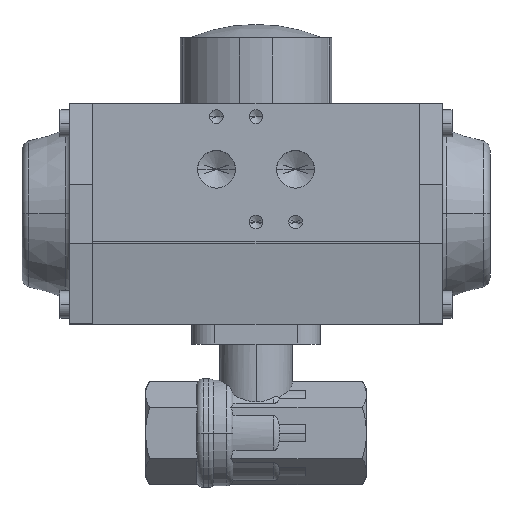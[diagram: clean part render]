
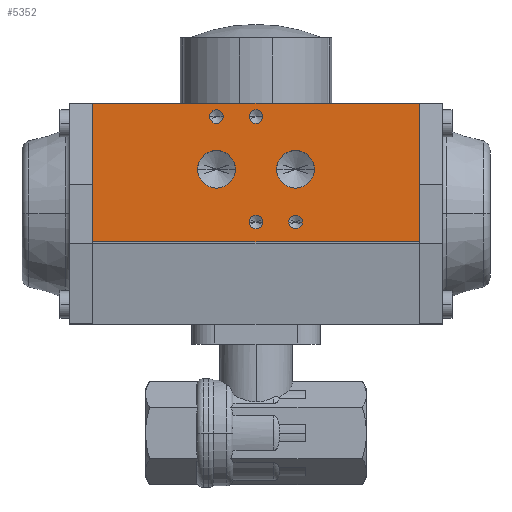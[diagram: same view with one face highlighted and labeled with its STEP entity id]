
A CAD part, top view. The second image highlights one B-rep face of the part: STEP entity #5352.
In plain terms, the highlighted planar face has unit normal (0, 0, 1) as drawn and (1, 0, 0) by its records, which use the part's own axes.
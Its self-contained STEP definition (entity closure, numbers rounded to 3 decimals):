
#476 = ORIENTED_EDGE ( 'NONE', *, *, #10425, .F. ) ;
#477 = ORIENTED_EDGE ( 'NONE', *, *, #5603, .F. ) ;
#478 = ORIENTED_EDGE ( 'NONE', *, *, #10426, .F. ) ;
#479 = ORIENTED_EDGE ( 'NONE', *, *, #5609, .F. ) ;
#480 = ORIENTED_EDGE ( 'NONE', *, *, #10427, .F. ) ;
#481 = ORIENTED_EDGE ( 'NONE', *, *, #5615, .F. ) ;
#482 = ORIENTED_EDGE ( 'NONE', *, *, #10428, .F. ) ;
#483 = ORIENTED_EDGE ( 'NONE', *, *, #5621, .F. ) ;
#484 = ORIENTED_EDGE ( 'NONE', *, *, #10429, .F. ) ;
#485 = ORIENTED_EDGE ( 'NONE', *, *, #5627, .F. ) ;
#486 = ORIENTED_EDGE ( 'NONE', *, *, #10430, .F. ) ;
#487 = ORIENTED_EDGE ( 'NONE', *, *, #5633, .F. ) ;
#488 = ORIENTED_EDGE ( 'NONE', *, *, #10423, .T. ) ;
#489 = ORIENTED_EDGE ( 'NONE', *, *, #10431, .F. ) ;
#490 = ORIENTED_EDGE ( 'NONE', *, *, #10432, .F. ) ;
#491 = ORIENTED_EDGE ( 'NONE', *, *, #10433, .T. ) ;
#1293 = CARTESIAN_POINT ( 'NONE',  ( 36., 29.5, 14.1 ) ) ;
#1294 = CARTESIAN_POINT ( 'NONE',  ( 36., 29.5, 9.9 ) ) ;
#1298 = CARTESIAN_POINT ( 'NONE',  ( 36., -2.5, -9.9 ) ) ;
#1299 = CARTESIAN_POINT ( 'NONE',  ( 36., -2.5, -14.1 ) ) ;
#1303 = CARTESIAN_POINT ( 'NONE',  ( 36., -2.5, 2.1 ) ) ;
#1304 = CARTESIAN_POINT ( 'NONE',  ( 36., -2.5, -2.1 ) ) ;
#1308 = CARTESIAN_POINT ( 'NONE',  ( 36., 29.5, 2.1 ) ) ;
#1309 = CARTESIAN_POINT ( 'NONE',  ( 36., 29.5, -2.1 ) ) ;
#1313 = CARTESIAN_POINT ( 'NONE',  ( 36., 13.5, -6.277 ) ) ;
#1314 = CARTESIAN_POINT ( 'NONE',  ( 36., 13.5, -17.722 ) ) ;
#1318 = CARTESIAN_POINT ( 'NONE',  ( 36., 13.5, 17.722 ) ) ;
#1319 = CARTESIAN_POINT ( 'NONE',  ( 36., 13.5, 6.277 ) ) ;
#3711 = VERTEX_POINT ( 'NONE', #1293 ) ;
#3712 = VERTEX_POINT ( 'NONE', #1294 ) ;
#3716 = VERTEX_POINT ( 'NONE', #1298 ) ;
#3717 = VERTEX_POINT ( 'NONE', #1299 ) ;
#3721 = VERTEX_POINT ( 'NONE', #1303 ) ;
#3722 = VERTEX_POINT ( 'NONE', #1304 ) ;
#3726 = VERTEX_POINT ( 'NONE', #1308 ) ;
#3727 = VERTEX_POINT ( 'NONE', #1309 ) ;
#3731 = VERTEX_POINT ( 'NONE', #1313 ) ;
#3732 = VERTEX_POINT ( 'NONE', #1314 ) ;
#3736 = VERTEX_POINT ( 'NONE', #1318 ) ;
#3737 = VERTEX_POINT ( 'NONE', #1319 ) ;
#3767 = CARTESIAN_POINT ( 'NONE',  ( 36., 29.5, 0. ) ) ;
#3768 = DIRECTION ( 'NONE',  ( 1., 0., 0. ) ) ;
#3769 = DIRECTION ( 'NONE',  ( 0., 0., -1. ) ) ;
#3786 = CARTESIAN_POINT ( 'NONE',  ( 36., 13.5, -12. ) ) ;
#3787 = DIRECTION ( 'NONE',  ( 1., 0., 0. ) ) ;
#3788 = DIRECTION ( 'NONE',  ( 0., 0., -1. ) ) ;
#3804 = CARTESIAN_POINT ( 'NONE',  ( 36., 13.5, 12. ) ) ;
#3805 = DIRECTION ( 'NONE',  ( 1., 0., 0. ) ) ;
#3806 = DIRECTION ( 'NONE',  ( 0., 0., -1. ) ) ;
#4058 = CARTESIAN_POINT ( 'NONE',  ( 36., -8.5, -49.5 ) ) ;
#4063 = CARTESIAN_POINT ( 'NONE',  ( 36., 33.5, -49.5 ) ) ;
#4064 = CARTESIAN_POINT ( 'NONE',  ( 36., 33.5, 49.5 ) ) ;
#4066 = CARTESIAN_POINT ( 'NONE',  ( 36., -8.5, 49.5 ) ) ;
#4230 = LINE ( 'NONE', #4231, #10078 ) ;
#4231 = CARTESIAN_POINT ( 'NONE',  ( 36., 33.5, -49.5 ) ) ;
#4232 = DIRECTION ( 'NONE',  ( 0., 0., 1. ) ) ;
#4235 = CARTESIAN_POINT ( 'NONE',  ( 36., 29.5, 12. ) ) ;
#4236 = DIRECTION ( 'NONE',  ( 1., 0., 0. ) ) ;
#4237 = DIRECTION ( 'NONE',  ( 0., 0., -1. ) ) ;
#4238 = CARTESIAN_POINT ( 'NONE',  ( 36., -2.5, -12. ) ) ;
#4239 = DIRECTION ( 'NONE',  ( 1., 0., 0. ) ) ;
#4240 = DIRECTION ( 'NONE',  ( 0., 0., -1. ) ) ;
#4241 = CARTESIAN_POINT ( 'NONE',  ( 36., -2.5, 0. ) ) ;
#4242 = DIRECTION ( 'NONE',  ( 1., 0., 0. ) ) ;
#4243 = DIRECTION ( 'NONE',  ( 0., 0., -1. ) ) ;
#4244 = CARTESIAN_POINT ( 'NONE',  ( 36., 29.5, 0. ) ) ;
#4245 = DIRECTION ( 'NONE',  ( 1., 0., 0. ) ) ;
#4246 = DIRECTION ( 'NONE',  ( 0., 0., -1. ) ) ;
#4247 = LINE ( 'NONE', #4248, #10066 ) ;
#4248 = CARTESIAN_POINT ( 'NONE',  ( 36., -8.5, 49.5 ) ) ;
#4249 = CARTESIAN_POINT ( 'NONE',  ( 36., 13.5, -12. ) ) ;
#4250 = DIRECTION ( 'NONE',  ( 1., 0., 0. ) ) ;
#4251 = DIRECTION ( 'NONE',  ( 0., 0., -1. ) ) ;
#4252 = LINE ( 'NONE', #4262, #10070 ) ;
#4253 = LINE ( 'NONE', #4259, #10080 ) ;
#4254 = CARTESIAN_POINT ( 'NONE',  ( 36., 13.5, 12. ) ) ;
#4255 = DIRECTION ( 'NONE',  ( 1., 0., 0. ) ) ;
#4256 = DIRECTION ( 'NONE',  ( 0., 0., -1. ) ) ;
#4258 = DIRECTION ( 'NONE',  ( 0., 1., 0. ) ) ;
#4259 = CARTESIAN_POINT ( 'NONE',  ( 36., -8.5, -49.5 ) ) ;
#4261 = DIRECTION ( 'NONE',  ( 0., 0., 1. ) ) ;
#4262 = CARTESIAN_POINT ( 'NONE',  ( 36., -8.5, -49.5 ) ) ;
#4263 = DIRECTION ( 'NONE',  ( 0., 1., 0. ) ) ;
#5352 = ADVANCED_FACE ( 'NONE', ( #8011, #8007, #8014, #8016, #8010, #8012, #8013 ), #8015, .T. ) ;
#5603 = EDGE_CURVE ( 'NONE', #3711, #3712, #9912, .T. ) ;
#5609 = EDGE_CURVE ( 'NONE', #3716, #3717, #9900, .T. ) ;
#5615 = EDGE_CURVE ( 'NONE', #3721, #3722, #9916, .T. ) ;
#5621 = EDGE_CURVE ( 'NONE', #3726, #3727, #9926, .T. ) ;
#5627 = EDGE_CURVE ( 'NONE', #3731, #3732, #9929, .T. ) ;
#5633 = EDGE_CURVE ( 'NONE', #3736, #3737, #9937, .T. ) ;
#5756 = VERTEX_POINT ( 'NONE', #4058 ) ;
#5761 = VERTEX_POINT ( 'NONE', #4063 ) ;
#5762 = VERTEX_POINT ( 'NONE', #4064 ) ;
#5764 = VERTEX_POINT ( 'NONE', #4066 ) ;
#5844 = EDGE_LOOP ( 'NONE', ( #488, #489, #490, #491 ) ) ;
#5845 = EDGE_LOOP ( 'NONE', ( #480, #481 ) ) ;
#5846 = EDGE_LOOP ( 'NONE', ( #484, #485 ) ) ;
#5847 = EDGE_LOOP ( 'NONE', ( #476, #477 ) ) ;
#5848 = EDGE_LOOP ( 'NONE', ( #482, #483 ) ) ;
#5852 = EDGE_LOOP ( 'NONE', ( #486, #487 ) ) ;
#5853 = EDGE_LOOP ( 'NONE', ( #478, #479 ) ) ;
#7039 = CARTESIAN_POINT ( 'NONE',  ( 36., 29.5, 12. ) ) ;
#7040 = DIRECTION ( 'NONE',  ( 1., 0., 0. ) ) ;
#7041 = DIRECTION ( 'NONE',  ( 0., 0., -1. ) ) ;
#7057 = CARTESIAN_POINT ( 'NONE',  ( 36., -2.5, -12. ) ) ;
#7058 = DIRECTION ( 'NONE',  ( 1., 0., 0. ) ) ;
#7059 = DIRECTION ( 'NONE',  ( 0., 0., -1. ) ) ;
#7075 = CARTESIAN_POINT ( 'NONE',  ( 36., -2.5, 0. ) ) ;
#7076 = DIRECTION ( 'NONE',  ( 1., 0., 0. ) ) ;
#7077 = DIRECTION ( 'NONE',  ( 0., 0., -1. ) ) ;
#8003 = CARTESIAN_POINT ( 'NONE',  ( 36., -8.5, -49.5 ) ) ;
#8007 = FACE_BOUND ( 'NONE', #5853, .T. ) ;
#8010 = FACE_BOUND ( 'NONE', #5846, .T. ) ;
#8011 = FACE_BOUND ( 'NONE', #5847, .T. ) ;
#8012 = FACE_BOUND ( 'NONE', #5852, .T. ) ;
#8013 = FACE_OUTER_BOUND ( 'NONE', #5844, .T. ) ;
#8014 = FACE_BOUND ( 'NONE', #5845, .T. ) ;
#8015 = PLANE ( 'NONE',  #9020 ) ;
#8016 = FACE_BOUND ( 'NONE', #5848, .T. ) ;
#8019 = DIRECTION ( 'NONE',  ( 1., 0., 0. ) ) ;
#8020 = DIRECTION ( 'NONE',  ( 0., 0., -1. ) ) ;
#9020 = AXIS2_PLACEMENT_3D ( 'NONE', #8003, #8019, #8020 ) ;
#9742 = AXIS2_PLACEMENT_3D ( 'NONE', #3804, #3805, #3806 ) ;
#9900 = CIRCLE ( 'NONE', #9919, 2.1 ) ;
#9905 = AXIS2_PLACEMENT_3D ( 'NONE', #7039, #7040, #7041 ) ;
#9912 = CIRCLE ( 'NONE', #9905, 2.1 ) ;
#9916 = CIRCLE ( 'NONE', #9921, 2.1 ) ;
#9919 = AXIS2_PLACEMENT_3D ( 'NONE', #7057, #7058, #7059 ) ;
#9921 = AXIS2_PLACEMENT_3D ( 'NONE', #7075, #7076, #7077 ) ;
#9926 = CIRCLE ( 'NONE', #9931, 2.1 ) ;
#9929 = CIRCLE ( 'NONE', #9933, 5.722 ) ;
#9931 = AXIS2_PLACEMENT_3D ( 'NONE', #3767, #3768, #3769 ) ;
#9933 = AXIS2_PLACEMENT_3D ( 'NONE', #3786, #3787, #3788 ) ;
#9937 = CIRCLE ( 'NONE', #9742, 5.722 ) ;
#10063 = AXIS2_PLACEMENT_3D ( 'NONE', #4244, #4245, #4246 ) ;
#10064 = CIRCLE ( 'NONE', #10069, 5.722 ) ;
#10065 = AXIS2_PLACEMENT_3D ( 'NONE', #4249, #4250, #4251 ) ;
#10066 = VECTOR ( 'NONE', #4258, 1000. ) ;
#10069 = AXIS2_PLACEMENT_3D ( 'NONE', #4254, #4255, #4256 ) ;
#10070 = VECTOR ( 'NONE', #4263, 1000. ) ;
#10071 = CIRCLE ( 'NONE', #10065, 5.722 ) ;
#10072 = AXIS2_PLACEMENT_3D ( 'NONE', #4241, #4242, #4243 ) ;
#10073 = CIRCLE ( 'NONE', #10072, 2.1 ) ;
#10074 = AXIS2_PLACEMENT_3D ( 'NONE', #4238, #4239, #4240 ) ;
#10075 = CIRCLE ( 'NONE', #10063, 2.1 ) ;
#10076 = AXIS2_PLACEMENT_3D ( 'NONE', #4235, #4236, #4237 ) ;
#10078 = VECTOR ( 'NONE', #4232, 1000. ) ;
#10079 = CIRCLE ( 'NONE', #10076, 2.1 ) ;
#10080 = VECTOR ( 'NONE', #4261, 1000. ) ;
#10081 = CIRCLE ( 'NONE', #10074, 2.1 ) ;
#10423 = EDGE_CURVE ( 'NONE', #5761, #5762, #4230, .T. ) ;
#10425 = EDGE_CURVE ( 'NONE', #3712, #3711, #10079, .T. ) ;
#10426 = EDGE_CURVE ( 'NONE', #3717, #3716, #10081, .T. ) ;
#10427 = EDGE_CURVE ( 'NONE', #3722, #3721, #10073, .T. ) ;
#10428 = EDGE_CURVE ( 'NONE', #3727, #3726, #10075, .T. ) ;
#10429 = EDGE_CURVE ( 'NONE', #3732, #3731, #10071, .T. ) ;
#10430 = EDGE_CURVE ( 'NONE', #3737, #3736, #10064, .T. ) ;
#10431 = EDGE_CURVE ( 'NONE', #5764, #5762, #4247, .T. ) ;
#10432 = EDGE_CURVE ( 'NONE', #5756, #5764, #4253, .T. ) ;
#10433 = EDGE_CURVE ( 'NONE', #5756, #5761, #4252, .T. ) ;
